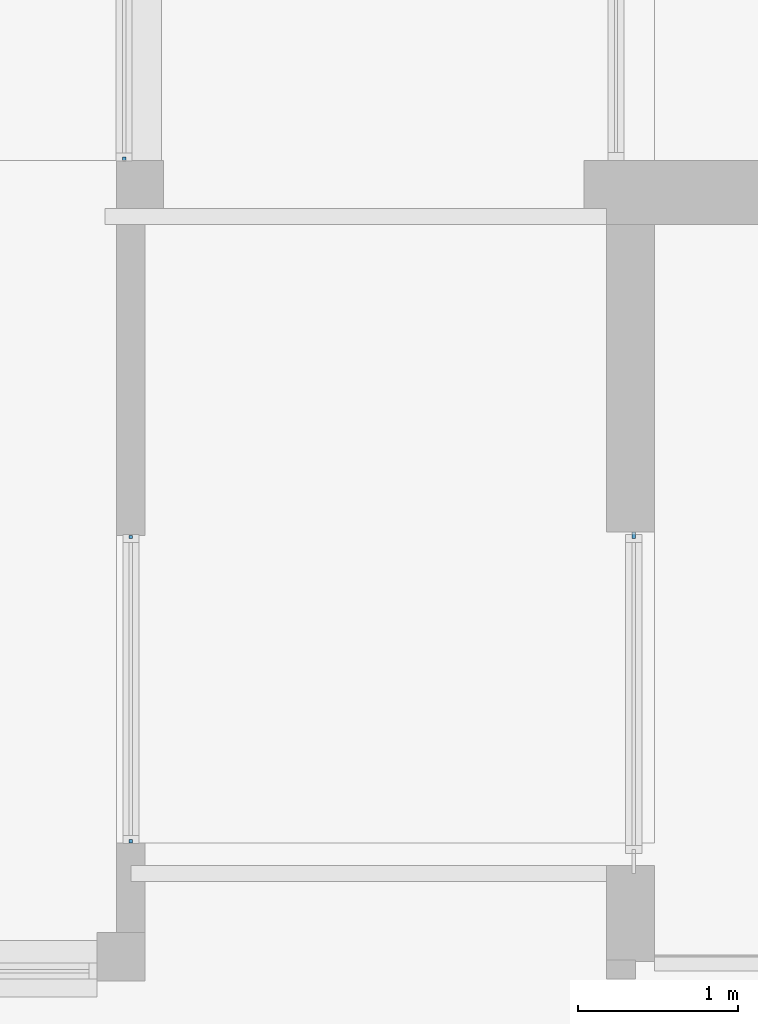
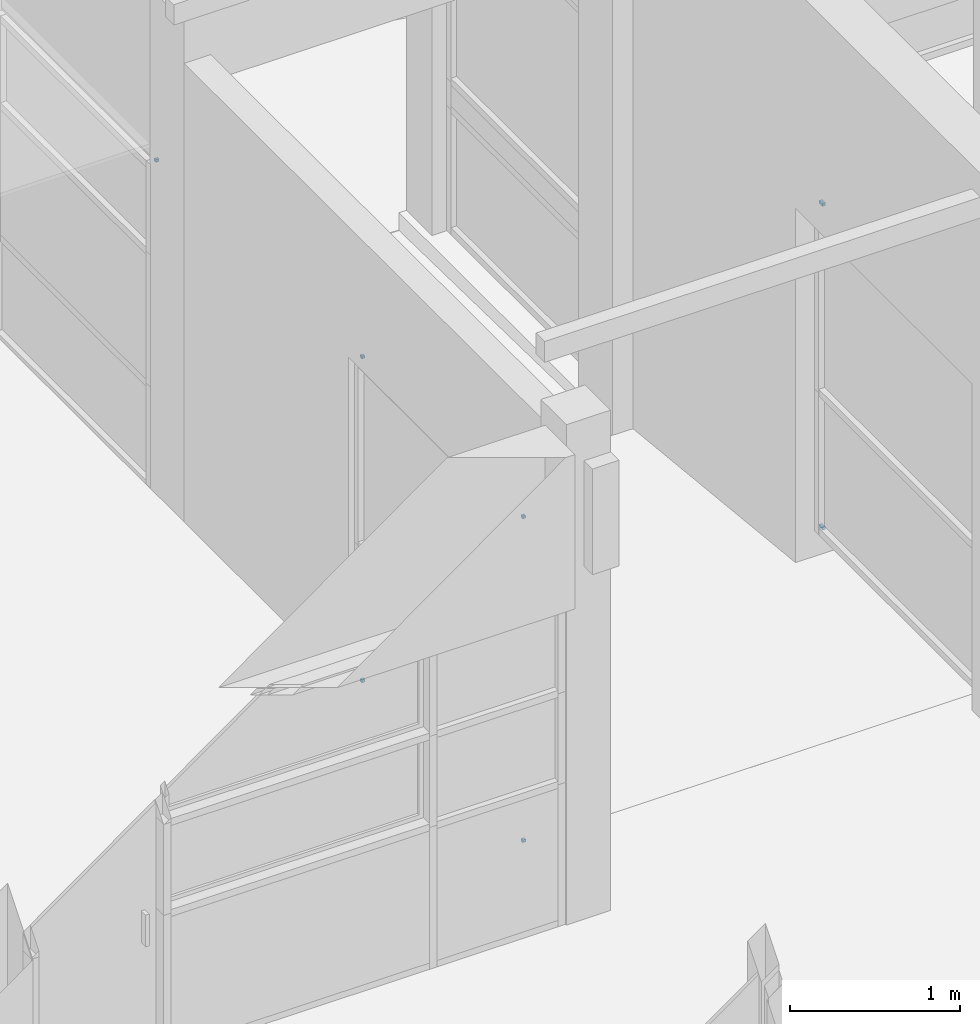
# One storey, part 66 of 117: 7 plates, 3 elements without a shape of their own.
"""IFC4 building model written with IfcOpenShell, lengths in metres."""

from ifc_helpers import new_model, entity, si_unit, converted_unit, derived_unit, direction, frame, origin, place, context, subcontext, project, spatial, indexed_curve, outline, extrude, source, transform, mapped, material, type_object, type_shapes, element, aggregate, save


model = new_model("IFC4")

# Units and contexts
model_context = context("Model", 3, precision=1e-05, world=origin(), true_north=direction((6.123031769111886e-17, 1.0)))
body_context = subcontext(model_context, "Body", "Model", "MODEL_VIEW")
ifc_project = project(units=[si_unit("LENGTHUNIT", "METRE"), si_unit("AREAUNIT", "SQUARE_METRE"), si_unit("VOLUMEUNIT", "CUBIC_METRE"), converted_unit("PLANEANGLEUNIT", "DEGREE", entity("IfcRatioMeasure", 0.017453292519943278), si_unit("PLANEANGLEUNIT", "RADIAN"), dimensions=[0, 0, 0, 0, 0, 0, 0]), si_unit("MASSUNIT", "GRAM", prefix="KILO"), derived_unit("MASSDENSITYUNIT", [(si_unit("MASSUNIT", "GRAM", prefix="KILO"), 1), (si_unit("LENGTHUNIT", "METRE"), -3)]), derived_unit("MOMENTOFINERTIAUNIT", [(si_unit("LENGTHUNIT", "METRE"), 4)]), si_unit("TIMEUNIT", "SECOND"), si_unit("FREQUENCYUNIT", "HERTZ"), si_unit("THERMODYNAMICTEMPERATUREUNIT", "DEGREE_CELSIUS"), derived_unit("THERMALTRANSMITTANCEUNIT", [(si_unit("MASSUNIT", "GRAM", prefix="KILO"), 1), (si_unit("THERMODYNAMICTEMPERATUREUNIT", "KELVIN"), -1), (si_unit("TIMEUNIT", "SECOND"), -3)]), derived_unit("VOLUMETRICFLOWRATEUNIT", [(si_unit("LENGTHUNIT", "METRE"), 3), (si_unit("TIMEUNIT", "SECOND"), -1)]), derived_unit("MASSFLOWRATEUNIT", [(si_unit("MASSUNIT", "GRAM", prefix="KILO"), 1), (si_unit("TIMEUNIT", "SECOND"), -1)]), derived_unit("ROTATIONALFREQUENCYUNIT", [(si_unit("TIMEUNIT", "SECOND"), -1)]), si_unit("ELECTRICCURRENTUNIT", "AMPERE"), si_unit("ELECTRICVOLTAGEUNIT", "VOLT"), si_unit("POWERUNIT", "WATT"), si_unit("FORCEUNIT", "NEWTON", prefix="KILO"), si_unit("ILLUMINANCEUNIT", "LUX"), si_unit("LUMINOUSFLUXUNIT", "LUMEN"), si_unit("LUMINOUSINTENSITYUNIT", "CANDELA"), derived_unit("USERDEFINED", [(si_unit("MASSUNIT", "GRAM", prefix="KILO"), -1), (si_unit("LENGTHUNIT", "METRE"), -2), (si_unit("TIMEUNIT", "SECOND"), 3), (si_unit("LUMINOUSFLUXUNIT", "LUMEN"), 1)]), derived_unit("SOUNDPOWERUNIT", [(si_unit("MASSUNIT", "GRAM", prefix="KILO"), 1), (si_unit("LENGTHUNIT", "METRE"), 2), (si_unit("TIMEUNIT", "SECOND"), -3)]), derived_unit("SOUNDPRESSUREUNIT", [(si_unit("MASSUNIT", "GRAM", prefix="KILO"), 1), (si_unit("LENGTHUNIT", "METRE"), -1), (si_unit("TIMEUNIT", "SECOND"), -2)]), derived_unit("LINEARVELOCITYUNIT", [(si_unit("LENGTHUNIT", "METRE"), 1), (si_unit("TIMEUNIT", "SECOND"), -1)]), si_unit("PRESSUREUNIT", "PASCAL"), derived_unit("USERDEFINED", [(si_unit("LENGTHUNIT", "METRE"), -2), (si_unit("MASSUNIT", "GRAM", prefix="KILO"), 1), (si_unit("TIMEUNIT", "SECOND"), -2)]), derived_unit("LINEARFORCEUNIT", [(si_unit("MASSUNIT", "GRAM", prefix="KILO"), 1), (si_unit("LENGTHUNIT", "METRE"), 1), (si_unit("TIMEUNIT", "SECOND"), -2), (si_unit("LENGTHUNIT", "METRE"), -1)]), derived_unit("PLANARFORCEUNIT", [(si_unit("MASSUNIT", "GRAM", prefix="KILO"), 1), (si_unit("LENGTHUNIT", "METRE"), 1), (si_unit("TIMEUNIT", "SECOND"), -2), (si_unit("LENGTHUNIT", "METRE"), -2)])], contexts=[model_context])

# Site, building, storey
site_placement = place(None, origin())
site = spatial("IfcSite", under=ifc_project, at=site_placement, Name="Superficie", CompositionType="ELEMENT")
building_placement = place(site_placement, origin())
building = spatial("IfcBuilding", under=site, at=building_placement, CompositionType="ELEMENT")
storey_placement = place(building_placement, origin())
storey = spatial("IfcBuildingStorey", under=building, at=storey_placement, Name="Nivel 0", CompositionType="ELEMENT", Elevation=0.0)

# Curtain wall, plates
curtain_wall_type = type_object("IfcCurtainWallType", Name="Muro cortina:Muro cortina - simple", PredefinedType="NOTDEFINED")
curtain_wall_1_placement = place(storey_placement, origin())
curtain_wall_1 = element("IfcCurtainWall", 1, at=curtain_wall_1_placement, inside=storey, type_object=curtain_wall_type, Name="Muro cortina:Muro cortina - simple", ObjectType="Muro cortina:Muro cortina - simple", PredefinedType="NOTDEFINED")
ifc_material = material(Name="Cristal", Category="Vidrio")
plate_type_1 = type_object("IfcPlateType", Name="Panel de sistema:Acristalado", PredefinedType="CURTAIN_PANEL", material=ifc_material)
shared_shape_1 = source(origin(), body_context, "Body", "SweptSolid", [
    extrude(outline(indexed_curve([(-0.01, -0.009999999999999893), (0.01, -0.009999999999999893), (0.01, 0.009999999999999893), (-0.01, 0.009999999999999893), (-0.01, -0.009999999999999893)], self_intersect=False)), frame((0.0, 0.0, 0.0), z_axis=(0.0, 0.0, 1.0), x_axis=(0.0, 1.0, 0.0)), (0.0, 0.0, 1.0), 0.02000000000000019),
])
type_shapes(plate_type_1, [shared_shape_1])
plate_1_placement = place(curtain_wall_1_placement, frame((12.881799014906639, 8.423973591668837, 0.0), z_axis=(0.0, 0.0, 1.0), x_axis=(0.0, -1.0, 0.0)))
plate_1 = element("IfcPlate", 2, at=plate_1_placement, type_object=plate_type_1, material=ifc_material, Name="Panel de sistema:Acristalado", ObjectType="Panel de sistema:Acristalado", PredefinedType="CURTAIN_PANEL", context=body_context, shape_type="MappedRepresentation", body=[
    mapped(shared_shape_1, transform((0.0, 0.0, 0.0), scale=1.0)),
])
plate_2_placement = place(curtain_wall_1_placement, frame((12.881799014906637, 6.5267397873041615, 0.0), z_axis=(0.0, 0.0, 1.0), x_axis=(0.0, -1.0, 0.0)))
plate_2 = element("IfcPlate", 3, at=plate_2_placement, type_object=plate_type_1, material=ifc_material, Name="Panel de sistema:Acristalado", ObjectType="Panel de sistema:Acristalado", PredefinedType="CURTAIN_PANEL", context=body_context, shape_type="MappedRepresentation", body=[
    mapped(shared_shape_1, transform((0.0, 0.0, 0.0), scale=1.0)),
])
plate_3_placement = place(curtain_wall_1_placement, frame((12.881799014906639, 8.423973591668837, 2.33), z_axis=(0.0, 0.0, 1.0), x_axis=(0.0, -1.0, 0.0)))
plate_3 = element("IfcPlate", 4, at=plate_3_placement, type_object=plate_type_1, material=ifc_material, Name="Panel de sistema:Acristalado", ObjectType="Panel de sistema:Acristalado", PredefinedType="CURTAIN_PANEL", context=body_context, shape_type="MappedRepresentation", body=[
    mapped(shared_shape_1, transform((0.0, 0.0, 0.0), scale=1.0)),
])
plate_4_placement = place(curtain_wall_1_placement, frame((12.881799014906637, 6.5267397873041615, 2.33), z_axis=(0.0, 0.0, 1.0), x_axis=(0.0, -1.0, 0.0)))
plate_4 = element("IfcPlate", 5, at=plate_4_placement, type_object=plate_type_1, material=ifc_material, Name="Panel de sistema:Acristalado", ObjectType="Panel de sistema:Acristalado", PredefinedType="CURTAIN_PANEL", context=body_context, shape_type="MappedRepresentation", body=[
    mapped(shared_shape_1, transform((0.0, 0.0, 0.0), scale=1.0)),
])
aggregate(curtain_wall_1, [plate_1, plate_2, plate_3, plate_4])

curtain_wall_2_placement = place(storey_placement, origin())
curtain_wall_2 = element("IfcCurtainWall", 6, at=curtain_wall_2_placement, inside=storey, type_object=curtain_wall_type, Name="Muro cortina:Muro cortina - simple", ObjectType="Muro cortina:Muro cortina - simple", PredefinedType="NOTDEFINED")
plate_type_2 = type_object("IfcPlateType", Name="Panel de sistema:Acristalado", PredefinedType="CURTAIN_PANEL", material=ifc_material)
shared_shape_2 = source(origin(), body_context, "Body", "SweptSolid", [
    extrude(outline(indexed_curve([(-0.01, -0.0207352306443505), (0.01, -0.0207352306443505), (0.01, 0.0207352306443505), (-0.01, 0.0207352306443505), (-0.01, -0.0207352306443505)], self_intersect=False)), frame((0.0, 0.0, 0.0), z_axis=(0.0, 0.0, 1.0), x_axis=(0.0, 1.0, 0.0)), (0.0, 0.0, 1.0), 0.020000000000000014),
])
type_shapes(plate_type_2, [shared_shape_2])
plate_5_placement = place(curtain_wall_2_placement, frame((16.01679901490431, 8.434708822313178, 0.0), z_axis=(0.0, 0.0, 1.0), x_axis=(0.0, -1.0, 0.0)))
plate_5 = element("IfcPlate", 7, at=plate_5_placement, type_object=plate_type_2, material=ifc_material, Name="Panel de sistema:Acristalado", ObjectType="Panel de sistema:Acristalado", PredefinedType="CURTAIN_PANEL", context=body_context, shape_type="MappedRepresentation", body=[
    mapped(shared_shape_2, transform((0.0, 0.0, 0.0), scale=1.0)),
])
plate_6_placement = place(curtain_wall_2_placement, frame((16.01679901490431, 8.434708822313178, 2.33), z_axis=(0.0, 0.0, 1.0), x_axis=(0.0, -1.0, 0.0)))
plate_6 = element("IfcPlate", 8, at=plate_6_placement, type_object=plate_type_2, material=ifc_material, Name="Panel de sistema:Acristalado", ObjectType="Panel de sistema:Acristalado", PredefinedType="CURTAIN_PANEL", context=body_context, shape_type="MappedRepresentation", body=[
    mapped(shared_shape_2, transform((0.0, 0.0, 0.0), scale=1.0)),
])
aggregate(curtain_wall_2, [plate_5, plate_6])

# Curtain wall, plate
curtain_wall_3_placement = place(storey_placement, origin())
curtain_wall_3 = element("IfcCurtainWall", 9, at=curtain_wall_3_placement, inside=storey, type_object=curtain_wall_type, Name="Muro cortina:Muro cortina - simple", ObjectType="Muro cortina:Muro cortina - simple", PredefinedType="NOTDEFINED")
plate_type_3 = type_object("IfcPlateType", Name="Panel de sistema:Acristalado", PredefinedType="CURTAIN_PANEL", material=ifc_material)
shared_shape_3 = source(origin(), body_context, "Body", "SweptSolid", [
    extrude(outline(indexed_curve([(-0.01, -0.009999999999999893), (0.01, -0.009999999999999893), (0.01, 0.009999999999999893), (-0.01, 0.009999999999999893), (-0.01, -0.009999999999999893)], self_intersect=False)), frame((0.0, 0.0, 0.0), z_axis=(0.0, 0.0, 1.0), x_axis=(0.0, 1.0, 0.0)), (0.0, 0.0, 1.0), 0.020000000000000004),
])
type_shapes(plate_type_3, [shared_shape_3])
plate_7_placement = place(curtain_wall_3_placement, frame((12.840568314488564, 10.780829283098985, 2.3299999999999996), z_axis=(0.0, 0.0, 1.0), x_axis=(0.0, 1.0, 0.0)))
plate_7 = element("IfcPlate", 10, at=plate_7_placement, type_object=plate_type_3, material=ifc_material, Name="Panel de sistema:Acristalado", ObjectType="Panel de sistema:Acristalado", PredefinedType="CURTAIN_PANEL", context=body_context, shape_type="MappedRepresentation", body=[
    mapped(shared_shape_3, transform((0.0, 0.0, 0.0), scale=1.0)),
])
aggregate(curtain_wall_3, [plate_7])

save(model, "model.ifc")
